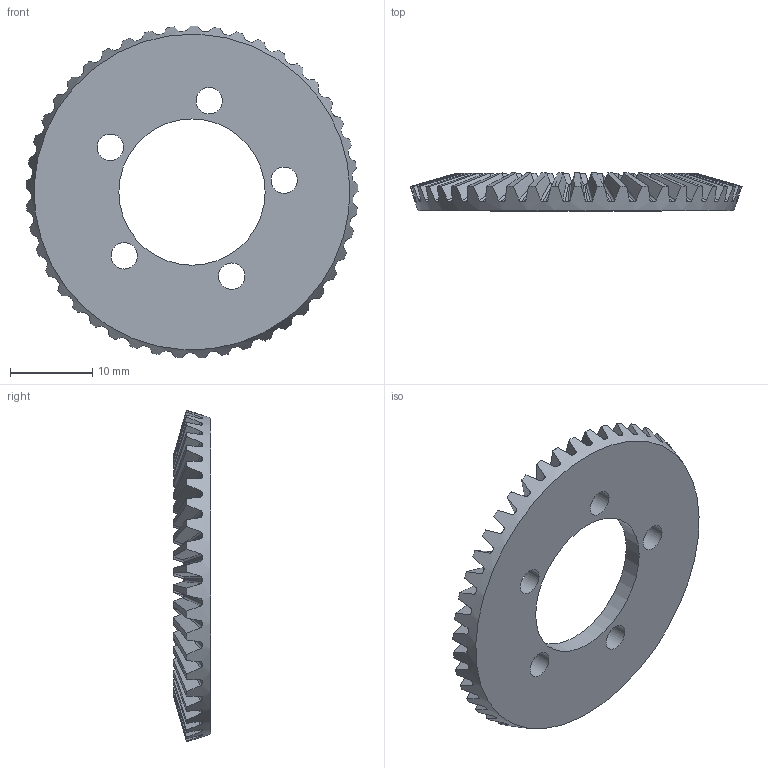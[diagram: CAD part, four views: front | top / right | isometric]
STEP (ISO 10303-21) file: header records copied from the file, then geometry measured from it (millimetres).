
FILE_DESCRIPTION(/* description */ ('STEP AP242 Edition 2','CAx-IF Rec.Pracs.---Representation and Presentation of Product Manufacturing Information (PMI)---4.0---2014-10-13','CAx-IF Rec.Pracs.---3D Tessellated Geometry---0.4---2014-09-14','2;1','CAx-IF Rec.Pracs.---User Defined Attributes---1.5---2016-08-15'),/* implementation_level */ '2;1');
FILE_NAME(/* name */ 'Main - Bevel Gear, 4515',/* time_stamp */ '2026-09-13T15:49:57Z',/* author */ (''),/* organization */ (''),/* preprocessor_version */ 'ST-DEVELOPER v20',/* originating_system */ 'ONSHAPE BY PTC INC, 1.220',/* authorisation */ ' ');
FILE_SCHEMA (('AP242_MANAGED_MODEL_BASED_3D_ENGINEERING_MIM_LF { 1 0 10303 442 3 1 4 }'));
Length unit declared in the file: metre
Products named in the file (1): Bevel Gear, 4515
Bounding box: 40.35 x 4.57 x 40.34 mm (x, y, z)
Volume: 2481.6 mm3; surface area: 3110.6 mm2
Topology: 1 solids, 1 shells, 283 faces, 948 edges, 667 vertices
Faces by surface type: bspline 138, cylinder 96, cone 47, plane 2
Full cylindrical faces by diameter (mm): 3.213 x5, 17.78 x1
Entity records: 18434 total; most frequent: CARTESIAN_POINT 11661, ORIENTED_EDGE 1864, EDGE_CURVE 932, DIRECTION 792, B_SPLINE_CURVE_WITH_KNOTS 682, VERTEX_POINT 659, AXIS2_PLACEMENT_3D 396, EDGE_LOOP 303
